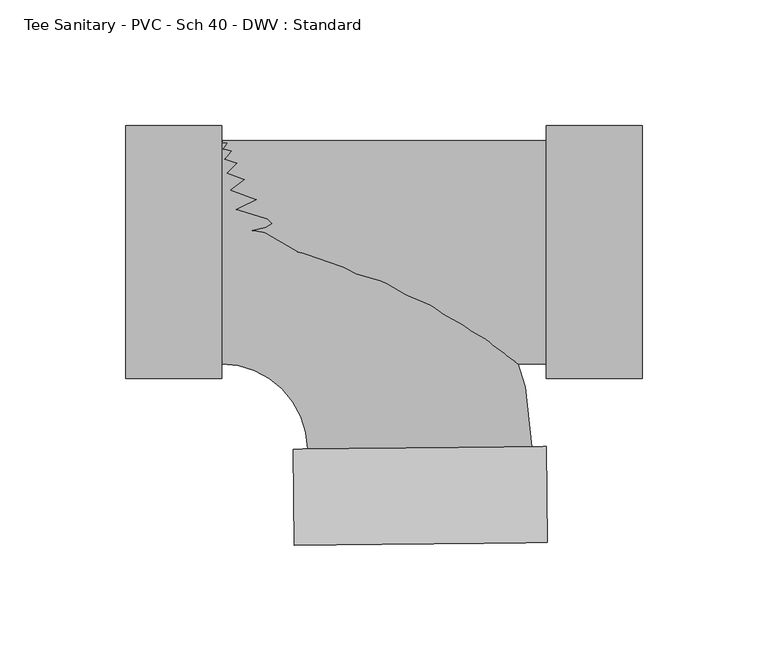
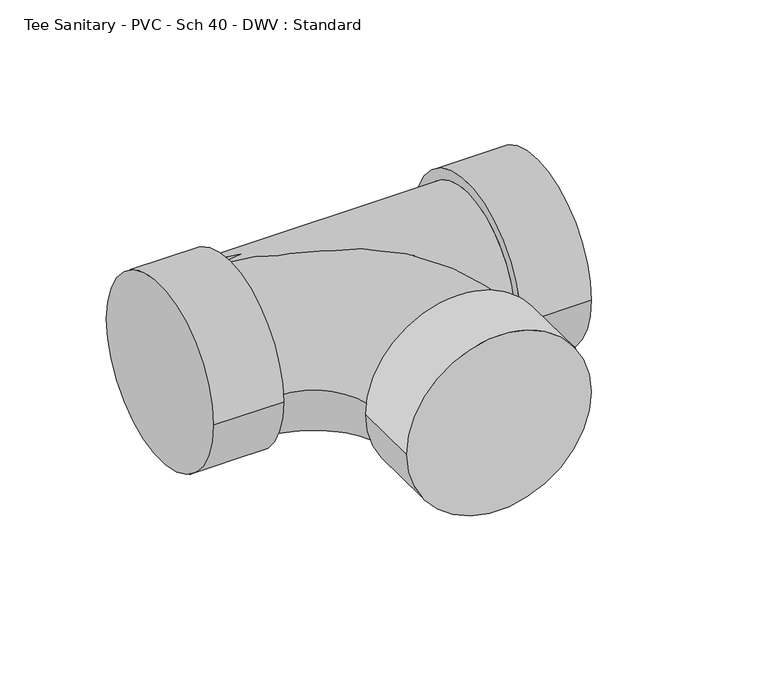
"""IFC4 building model written with IfcOpenShell, lengths in millimetres: pipe fitting geometry, Tee Sanitary - PVC - Sch 40 - DWV : Standard."""

from ifc_helpers import new_model, si_unit, point, frame, origin, place, context, project, spatial, circle_curve, ellipse_curve, trimmed, source, transform, mapped, element, save
from ifc_brep_helpers import plane_surface, cylinder_surface, revolved_surface, advanced_brep


def tee_sanitary_pvc_sch_40_dwv_standard_84754b13(model_context):
    return source(origin(), model_context, "Body", "AdvancedBrep", [
        advanced_brep(
        [(-77.8002, -44.45, 0.0), (-77.8002, 44.45, 0.0), (-43.6408425, -78.2569517, 0.0), (45.2543776, -77.3350821, 0.0), (51.4657518, -115.372717, 0.0), (-49.0620428, -116.4152197, 0.0), (51.0706648, -77.2747655, 0.0), (-49.4571298, -78.3172683, 0.0)],
        [
            (0, 1, circle_curve(frame((-77.8002, 0.0, 0.0), z_axis=(-1.0, 0.0, 0.0), x_axis=(0.0, 1.0, 0.0)), 44.45)),
            (1, 0, circle_curve(frame((-77.8002, 0.0, 0.0), z_axis=(-1.0, 0.0, 0.0), x_axis=(0.0, 1.0, 0.0)), 44.45)),
            (0, 2, circle_curve(frame((-77.8002, -78.6111942, 0.0), z_axis=(0.0, 0.0, -1.0), x_axis=(0.0, 1.0, 0.0)), 34.1611942)),
            (2, 3, circle_curve(frame((0.8067675, -77.7960169, 0.0), z_axis=(-0.010369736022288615, 0.9999462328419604, 0.0), x_axis=(0.9999462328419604, 0.010369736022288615, 0.0)), 44.45)),
            (3, 1, circle_curve(frame((-77.8002, -78.6111942, 0.0), z_axis=(0.0, 0.0, 1.0), x_axis=(0.0, 1.0, 0.0)), 123.0611942)),
            (3, 2, circle_curve(frame((0.8067675, -77.7960169, 0.0), z_axis=(-0.01036973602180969, 0.9999462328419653, 0.0), x_axis=(0.9999462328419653, 0.01036973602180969, 0.0)), 44.45)),
            (4, 5, circle_curve(frame((1.2018545, -115.8939684, 0.0), z_axis=(0.010369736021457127, -0.999946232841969, 0.0), x_axis=(-0.999946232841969, -0.010369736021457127, 0.0)), 50.2666)),
            (5, 4, circle_curve(frame((1.2018545, -115.8939684, 0.0), z_axis=(0.010369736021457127, -0.999946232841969, 0.0), x_axis=(-0.999946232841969, -0.010369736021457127, 0.0)), 50.2666)),
            (6, 7, circle_curve(frame((0.8067675, -77.7960169, 0.0), z_axis=(-0.010369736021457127, 0.999946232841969, 0.0), x_axis=(-0.999946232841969, -0.010369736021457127, 0.0)), 50.2666)),
            (7, 6, circle_curve(frame((0.8067675, -77.7960169, 0.0), z_axis=(-0.010369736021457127, 0.999946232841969, 0.0), x_axis=(-0.999946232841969, -0.010369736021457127, 0.0)), 50.2666)),
            (4, 6),
            (7, 5),
        ],
        [
            plane_surface(frame((-77.8002, 0.0, 0.0), z_axis=(-1.0, 0.0, 0.0), x_axis=(0.0, 0.0, 1.0))),
            revolved_surface(trimmed(ellipse_curve(frame((-77.8002, 0.0, 0.0), z_axis=(-1.0, 0.0, 0.0), x_axis=(0.0, 1.0, 0.0)), 44.45, 44.45), [point((-77.8002, -44.45, 0.0))], [point((-77.8002, 44.45, 0.0))], True, "CARTESIAN"), (-77.8002, -78.6111942, 0.0), (0.0, 0.0, -1.0)),
            revolved_surface(trimmed(ellipse_curve(frame((-77.8002, 0.0, 0.0), z_axis=(-1.0, 0.0, 0.0), x_axis=(0.0, 1.0, 0.0)), 44.45, 44.45), [point((-77.8002, 44.45, 0.0))], [point((-77.8002, -44.45, 0.0))], True, "CARTESIAN"), (-77.8002, -78.6111942, 0.0), (0.0, 0.0, -1.0)),
            plane_surface(frame((1.2018545, -115.8939684, 0.0), z_axis=(0.01036973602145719, -0.999946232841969, 0.0), x_axis=(0.0, 0.0, 1.0))),
            plane_surface(frame((0.8067675, -77.7960169, 0.0), z_axis=(-0.010369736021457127, 0.999946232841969, 0.0), x_axis=(0.0, 0.0, 1.0))),
            cylinder_surface(frame((1.2018545, -115.8939684, 0.0), z_axis=(0.010369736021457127, -0.999946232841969, 0.0), x_axis=(-0.999946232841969, -0.010369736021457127, 0.0)), 50.2666),
        ],
        [
            (0, [[1, 2]]),
            (1, [[-1, 3, 4, 5]]),
            (2, [[-2, -5, 6, -3]]),
            (3, [[7, 8]]),
            (4, [[9, 10], [-4, -6]]),
            (5, [[-7, 11, -10, 12]]),
            (5, [[-8, -12, -9, -11]]),
        ],
    ),
        advanced_brep(
        [(-77.8002, -44.45, 0.0), (51.0706648, -44.45, 0.0), (51.0706648, 44.45, 0.0), (-77.8002, 44.45, 0.0), (51.0706648, -50.2666, 0.0), (51.0706648, 50.2666, 0.0), (89.1706648, -50.2666, 0.0), (89.1706648, 50.2666, 0.0), (-115.9002, -50.2666, 0.0), (-115.9002, 50.2666, 0.0), (-77.8002, -50.2666, 0.0), (-77.8002, 50.2666, 0.0)],
        [
            (0, 1),
            (1, 2, circle_curve(frame((51.0706648, 0.0, 0.0), z_axis=(-1.0, 0.0, 0.0), x_axis=(0.0, 1.0, 0.0)), 44.45)),
            (2, 3),
            (3, 0, circle_curve(frame((-77.8002, 0.0, 0.0), z_axis=(1.0, 0.0, 0.0), x_axis=(0.0, 1.0, 0.0)), 44.45)),
            (0, 3, circle_curve(frame((-77.8002, 0.0, 0.0), z_axis=(1.0, 0.0, 0.0), x_axis=(0.0, 1.0, 0.0)), 44.45)),
            (2, 1, circle_curve(frame((51.0706648, 0.0, 0.0), z_axis=(-1.0, 0.0, 0.0), x_axis=(0.0, 1.0, 0.0)), 44.45)),
            (4, 5, circle_curve(frame((51.0706648, 0.0, 0.0), z_axis=(-1.0, 0.0, 0.0), x_axis=(0.0, 1.0, 0.0)), 50.2666)),
            (5, 4, circle_curve(frame((51.0706648, 0.0, 0.0), z_axis=(-1.0, 0.0, 0.0), x_axis=(0.0, 1.0, 0.0)), 50.2666)),
            (6, 7, circle_curve(frame((89.1706648, 0.0, 0.0), z_axis=(1.0, 0.0, 0.0), x_axis=(0.0, 1.0, 0.0)), 50.2666)),
            (7, 6, circle_curve(frame((89.1706648, 0.0, 0.0), z_axis=(1.0, 0.0, 0.0), x_axis=(0.0, 1.0, 0.0)), 50.2666)),
            (4, 6),
            (7, 5),
            (8, 9, circle_curve(frame((-115.9002, 0.0, 0.0), z_axis=(-1.0, 0.0, 0.0), x_axis=(0.0, 1.0, 0.0)), 50.2666)),
            (9, 8, circle_curve(frame((-115.9002, 0.0, 0.0), z_axis=(-1.0, 0.0, 0.0), x_axis=(0.0, 1.0, 0.0)), 50.2666)),
            (10, 11, circle_curve(frame((-77.8002, 0.0, 0.0), z_axis=(1.0, 0.0, 0.0), x_axis=(0.0, 1.0, 0.0)), 50.2666)),
            (11, 10, circle_curve(frame((-77.8002, 0.0, 0.0), z_axis=(1.0, 0.0, 0.0), x_axis=(0.0, 1.0, 0.0)), 50.2666)),
            (8, 10),
            (11, 9),
        ],
        [
            cylinder_surface(frame((-77.8002, 0.0, 0.0), z_axis=(-1.0, 0.0, 0.0), x_axis=(0.0, 1.0, 0.0)), 44.45),
            plane_surface(frame((51.0706648, 0.0, 0.0), z_axis=(-1.0, 0.0, 0.0), x_axis=(0.0, 0.0, 1.0))),
            plane_surface(frame((89.1706648, 0.0, 0.0), z_axis=(1.0, 0.0, 0.0), x_axis=(0.0, 0.0, 1.0))),
            cylinder_surface(frame((51.0706648, 0.0, 0.0), z_axis=(-1.0, 0.0, 0.0), x_axis=(0.0, 1.0, 0.0)), 50.2666),
            plane_surface(frame((-115.9002, 0.0, 0.0), z_axis=(-1.0, 0.0, 0.0), x_axis=(0.0, 0.0, 1.0))),
            plane_surface(frame((-77.8002, 0.0, 0.0), z_axis=(1.0, 0.0, 0.0), x_axis=(0.0, 0.0, 1.0))),
            cylinder_surface(frame((-115.9002, 0.0, 0.0), z_axis=(-1.0, 0.0, 0.0), x_axis=(0.0, 1.0, 0.0)), 50.2666),
        ],
        [
            (0, [[1, 2, 3, 4]]),
            (0, [[-1, 5, -3, 6]]),
            (1, [[7, 8], [-2, -6]]),
            (2, [[9, 10]]),
            (3, [[-7, 11, -10, 12]]),
            (3, [[-8, -12, -9, -11]]),
            (4, [[13, 14]]),
            (5, [[15, 16], [-4, -5]]),
            (6, [[-13, 17, -16, 18]]),
            (6, [[-14, -18, -15, -17]]),
        ],
    ),
    ])


if __name__ == "__main__":
    model = new_model("IFC4")
    model_context = context("Model", 3, world=origin())
    ifc_project = project(units=[si_unit("LENGTHUNIT", "METRE", prefix="MILLI")], contexts=[model_context])
    site = spatial("IfcSite", under=ifc_project)
    building = spatial("IfcBuilding", under=site)
    placement = place(None, origin())
    tee_sanitary_pvc_sch_40_dwv_standard_shape = tee_sanitary_pvc_sch_40_dwv_standard_84754b13(model_context)
    element("IfcPipeFitting", 1, ObjectType="Tee Sanitary - PVC - Sch 40 - DWV : Standard", at=placement, inside=building, context=model_context, shape_type="MappedRepresentation", body=[
        mapped(tee_sanitary_pvc_sch_40_dwv_standard_shape, transform((0.0, 0.0, 0.0), x_axis=(1.0, 0.0, 0.0), y_axis=(0.0, 1.0, 0.0), z_axis=(0.0, 0.0, 1.0))),
    ])
    save(model, "model.ifc")
